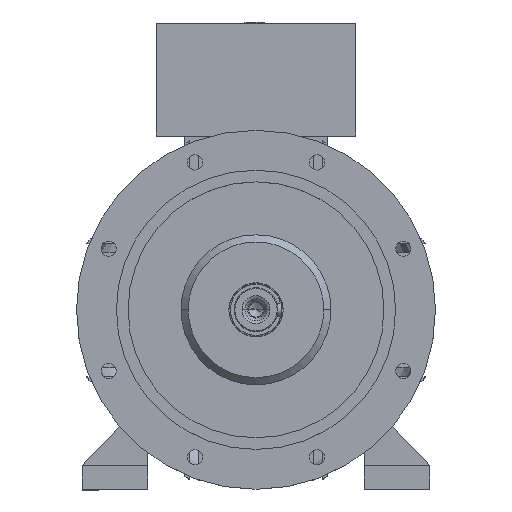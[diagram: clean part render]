
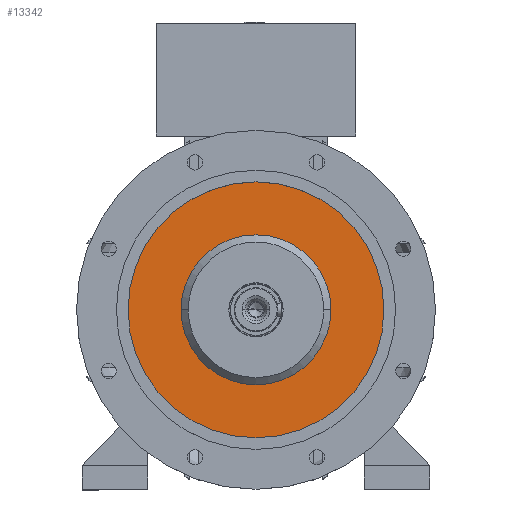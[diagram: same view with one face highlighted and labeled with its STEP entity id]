
A CAD part, top view. The second image highlights one B-rep face of the part: STEP entity #13342.
In plain terms, the highlighted planar face has unit normal (0, 0, 1).
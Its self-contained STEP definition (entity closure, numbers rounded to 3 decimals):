
#330 = CIRCLE ( 'NONE', #12462, 160.417 ) ;
#455 = CARTESIAN_POINT ( 'NONE',  ( -160.417, 0., 293.5 ) ) ;
#1436 = AXIS2_PLACEMENT_3D ( 'NONE', #13005, #4511, #2756 ) ;
#1574 = CARTESIAN_POINT ( 'NONE',  ( 0., 0., 293.5 ) ) ;
#2244 = CARTESIAN_POINT ( 'NONE',  ( 160.417, 0., 293.5 ) ) ;
#2498 = CARTESIAN_POINT ( 'NONE',  ( 94., 0., 293.5 ) ) ;
#2756 = DIRECTION ( 'NONE',  ( -1., 0., 0. ) ) ;
#3522 = EDGE_LOOP ( 'NONE', ( #6884, #16347 ) ) ;
#3708 = DIRECTION ( 'NONE',  ( -1., 0., 0. ) ) ;
#4171 = CARTESIAN_POINT ( 'NONE',  ( -94., 0., 293.5 ) ) ;
#4474 = EDGE_CURVE ( 'NONE', #23781, #9342, #330, .T. ) ;
#4511 = DIRECTION ( 'NONE',  ( 0., 0., 1. ) ) ;
#4578 = DIRECTION ( 'NONE',  ( 1., 0., 0. ) ) ;
#6255 = EDGE_CURVE ( 'NONE', #7679, #17348, #23860, .T. ) ;
#6698 = FACE_OUTER_BOUND ( 'NONE', #15495, .T. ) ;
#6884 = ORIENTED_EDGE ( 'NONE', *, *, #19405, .T. ) ;
#7252 = EDGE_CURVE ( 'NONE', #9342, #23781, #12158, .T. ) ;
#7679 = VERTEX_POINT ( 'NONE', #2498 ) ;
#8401 = AXIS2_PLACEMENT_3D ( 'NONE', #10789, #25610, #4578 ) ;
#9342 = VERTEX_POINT ( 'NONE', #455 ) ;
#10789 = CARTESIAN_POINT ( 'NONE',  ( 0., 160.417, 293.5 ) ) ;
#11327 = CARTESIAN_POINT ( 'NONE',  ( 0., 0., 293.5 ) ) ;
#12158 = CIRCLE ( 'NONE', #1436, 160.417 ) ;
#12462 = AXIS2_PLACEMENT_3D ( 'NONE', #14610, #24860, #16484 ) ;
#13005 = CARTESIAN_POINT ( 'NONE',  ( 0., 0., 293.5 ) ) ;
#13342 = ADVANCED_FACE ( 'NONE', ( #6698, #16229 ), #19229, .T. ) ;
#13560 = AXIS2_PLACEMENT_3D ( 'NONE', #11327, #17713, #26161 ) ;
#14585 = ORIENTED_EDGE ( 'NONE', *, *, #7252, .T. ) ;
#14610 = CARTESIAN_POINT ( 'NONE',  ( 0., 0., 293.5 ) ) ;
#15495 = EDGE_LOOP ( 'NONE', ( #14585, #17495 ) ) ;
#15542 = CIRCLE ( 'NONE', #20247, 94. ) ;
#16229 = FACE_BOUND ( 'NONE', #3522, .T. ) ;
#16347 = ORIENTED_EDGE ( 'NONE', *, *, #6255, .T. ) ;
#16484 = DIRECTION ( 'NONE',  ( -1., 0., 0. ) ) ;
#17348 = VERTEX_POINT ( 'NONE', #4171 ) ;
#17495 = ORIENTED_EDGE ( 'NONE', *, *, #4474, .T. ) ;
#17713 = DIRECTION ( 'NONE',  ( 0., 0., -1. ) ) ;
#19229 = PLANE ( 'NONE',  #8401 ) ;
#19405 = EDGE_CURVE ( 'NONE', #17348, #7679, #15542, .T. ) ;
#20247 = AXIS2_PLACEMENT_3D ( 'NONE', #1574, #22436, #3708 ) ;
#22436 = DIRECTION ( 'NONE',  ( 0., 0., -1. ) ) ;
#23781 = VERTEX_POINT ( 'NONE', #2244 ) ;
#23860 = CIRCLE ( 'NONE', #13560, 94. ) ;
#24860 = DIRECTION ( 'NONE',  ( 0., 0., 1. ) ) ;
#25610 = DIRECTION ( 'NONE',  ( 0., 0., 1. ) ) ;
#26161 = DIRECTION ( 'NONE',  ( -1., 0., 0. ) ) ;
